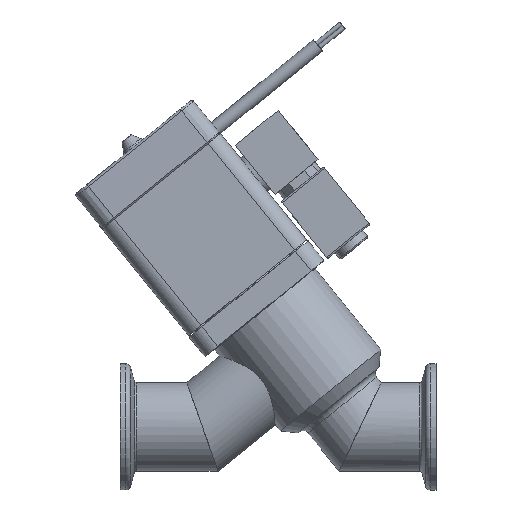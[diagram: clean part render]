
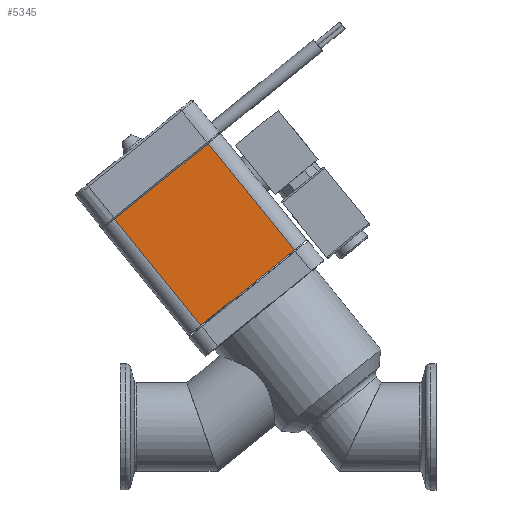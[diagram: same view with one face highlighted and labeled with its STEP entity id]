
A CAD part, top view. The second image highlights one B-rep face of the part: STEP entity #5345.
In plain terms, the highlighted planar face has unit normal (0, 0, 1).
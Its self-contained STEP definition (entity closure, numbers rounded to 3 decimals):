
#5345=ADVANCED_FACE('',(#6443),#6034,.F.);
#6034=PLANE('',#15687);
#6443=FACE_OUTER_BOUND('',#7003,.T.);
#7003=EDGE_LOOP('',(#8296,#8297,#8298,#8299));
#8296=ORIENTED_EDGE('',*,*,#12319,.T.);
#8297=ORIENTED_EDGE('',*,*,#12334,.F.);
#8298=ORIENTED_EDGE('',*,*,#12309,.F.);
#8299=ORIENTED_EDGE('',*,*,#12333,.T.);
#11136=VERTEX_POINT('',#20840);
#11137=VERTEX_POINT('',#20842);
#11145=VERTEX_POINT('',#20860);
#11146=VERTEX_POINT('',#20862);
#12309=EDGE_CURVE('',#11136,#11137,#13797,.T.);
#12319=EDGE_CURVE('',#11146,#11145,#13798,.T.);
#12333=EDGE_CURVE('',#11136,#11146,#13805,.T.);
#12334=EDGE_CURVE('',#11137,#11145,#13806,.T.);
#13797=LINE('',#20841,#14719);
#13798=LINE('',#20861,#14720);
#13805=LINE('',#20889,#14727);
#13806=LINE('',#20891,#14728);
#14719=VECTOR('',#17205,1.);
#14720=VECTOR('',#17226,1.);
#14727=VECTOR('',#17257,1.);
#14728=VECTOR('',#17260,1.);
#15687=AXIS2_PLACEMENT_3D('',#20892,#17261,#17262);
#17205=DIRECTION('',(1.,0.,0.));
#17226=DIRECTION('',(1.,0.,0.));
#17257=DIRECTION('',(0.,-1.,0.));
#17260=DIRECTION('',(0.,-1.,0.));
#17261=DIRECTION('',(0.,0.,-1.));
#17262=DIRECTION('',(-1.,0.,0.));
#20840=CARTESIAN_POINT('',(-19.,43.3,24.));
#20841=CARTESIAN_POINT('',(-19.,43.3,24.));
#20842=CARTESIAN_POINT('',(19.,43.3,24.));
#20860=CARTESIAN_POINT('',(19.,0.,24.));
#20861=CARTESIAN_POINT('',(-19.,0.,24.));
#20862=CARTESIAN_POINT('',(-19.,0.,24.));
#20889=CARTESIAN_POINT('',(-19.,43.3,24.));
#20891=CARTESIAN_POINT('',(19.,43.3,24.));
#20892=CARTESIAN_POINT('',(-19.,43.3,24.));
